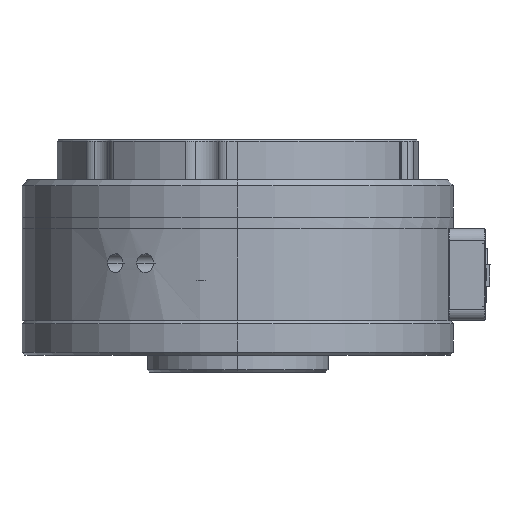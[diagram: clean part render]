
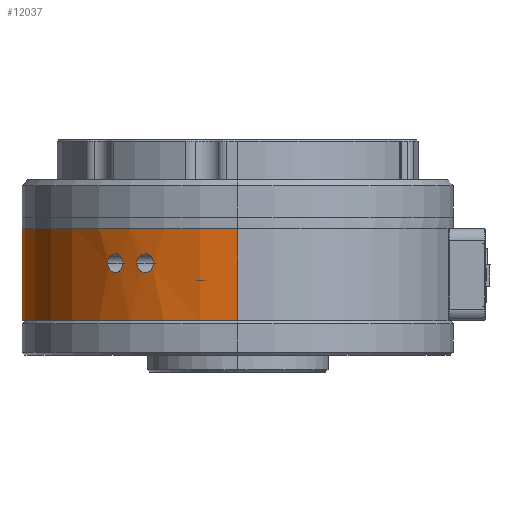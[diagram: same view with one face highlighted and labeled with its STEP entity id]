
A CAD part, left-side view. The second image highlights one B-rep face of the part: STEP entity #12037.
In plain terms, the highlighted cylindrical face has radius 37.5 mm (diameter 75 mm), a partial arc.
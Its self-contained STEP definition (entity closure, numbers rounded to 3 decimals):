
#10553=AXIS2_PLACEMENT_3D('Circle Axis2P3D',#10551,#10552,$) ;
#11926=AXIS2_PLACEMENT_3D('Cylinder Axis2P3D',#11923,#11924,#11925) ;
#11949=AXIS2_PLACEMENT_3D('Circle Axis2P3D',#11947,#11948,$) ;
#10548=CARTESIAN_POINT('Vertex',(-37.5,0.,-7.)) ;
#10551=CARTESIAN_POINT('Axis2P3D Location',(0.,0.,-7.)) ;
#10555=CARTESIAN_POINT('Vertex',(37.5,0.,-7.)) ;
#11923=CARTESIAN_POINT('Axis2P3D Location',(0.,0.,-2.5)) ;
#11932=CARTESIAN_POINT('Vertex',(-37.5,0.,9.)) ;
#11935=CARTESIAN_POINT('Line Origine',(-37.5,0.,-2.5)) ;
#11947=CARTESIAN_POINT('Axis2P3D Location',(0.,0.,9.)) ;
#11951=CARTESIAN_POINT('Vertex',(37.5,0.,9.)) ;
#11954=CARTESIAN_POINT('Line Origine',(37.5,0.,-2.5)) ;
#11966=CARTESIAN_POINT('Control Point',(-34.531,14.625,3.)) ;
#11967=CARTESIAN_POINT('Control Point',(-34.531,14.625,3.41)) ;
#11968=CARTESIAN_POINT('Control Point',(-34.479,14.747,3.82)) ;
#11969=CARTESIAN_POINT('Control Point',(-34.376,14.991,4.172)) ;
#11970=CARTESIAN_POINT('Control Point',(-34.159,15.48,4.537)) ;
#11971=CARTESIAN_POINT('Control Point',(-33.897,16.04,4.619)) ;
#11972=CARTESIAN_POINT('Control Point',(-33.807,16.229,4.613)) ;
#11973=CARTESIAN_POINT('Control Point',(-33.548,16.763,4.499)) ;
#11974=CARTESIAN_POINT('Control Point',(-33.321,17.207,4.123)) ;
#11975=CARTESIAN_POINT('Control Point',(-33.209,17.419,3.782)) ;
#11976=CARTESIAN_POINT('Control Point',(-33.153,17.524,3.391)) ;
#11977=CARTESIAN_POINT('Control Point',(-33.153,17.524,3.)) ;
#11978=CARTESIAN_POINT('Vertex',(-34.531,14.625,3.)) ;
#11980=CARTESIAN_POINT('Vertex',(-33.153,17.524,3.)) ;
#11984=CARTESIAN_POINT('Control Point',(-34.531,14.625,3.)) ;
#11985=CARTESIAN_POINT('Control Point',(-34.531,14.625,2.59)) ;
#11986=CARTESIAN_POINT('Control Point',(-34.479,14.747,2.18)) ;
#11987=CARTESIAN_POINT('Control Point',(-34.376,14.991,1.828)) ;
#11988=CARTESIAN_POINT('Control Point',(-34.159,15.48,1.463)) ;
#11989=CARTESIAN_POINT('Control Point',(-33.897,16.04,1.381)) ;
#11990=CARTESIAN_POINT('Control Point',(-33.807,16.229,1.387)) ;
#11991=CARTESIAN_POINT('Control Point',(-33.548,16.763,1.501)) ;
#11992=CARTESIAN_POINT('Control Point',(-33.321,17.207,1.877)) ;
#11993=CARTESIAN_POINT('Control Point',(-33.209,17.419,2.218)) ;
#11994=CARTESIAN_POINT('Control Point',(-33.153,17.524,2.609)) ;
#11995=CARTESIAN_POINT('Control Point',(-33.153,17.524,3.)) ;
#12002=CARTESIAN_POINT('Control Point',(-29.931,22.592,3.)) ;
#12003=CARTESIAN_POINT('Control Point',(-29.931,22.592,2.59)) ;
#12004=CARTESIAN_POINT('Control Point',(-30.01,22.486,2.18)) ;
#12005=CARTESIAN_POINT('Control Point',(-30.171,22.275,1.828)) ;
#12006=CARTESIAN_POINT('Control Point',(-30.486,21.843,1.463)) ;
#12007=CARTESIAN_POINT('Control Point',(-30.84,21.336,1.381)) ;
#12008=CARTESIAN_POINT('Control Point',(-30.959,21.163,1.387)) ;
#12009=CARTESIAN_POINT('Control Point',(-31.291,20.672,1.501)) ;
#12010=CARTESIAN_POINT('Control Point',(-31.563,20.253,1.877)) ;
#12011=CARTESIAN_POINT('Control Point',(-31.69,20.05,2.218)) ;
#12012=CARTESIAN_POINT('Control Point',(-31.753,19.949,2.609)) ;
#12013=CARTESIAN_POINT('Control Point',(-31.753,19.949,3.)) ;
#12014=CARTESIAN_POINT('Vertex',(-29.931,22.592,3.)) ;
#12016=CARTESIAN_POINT('Vertex',(-31.753,19.949,3.)) ;
#12020=CARTESIAN_POINT('Control Point',(-29.931,22.592,3.)) ;
#12021=CARTESIAN_POINT('Control Point',(-29.931,22.592,3.41)) ;
#12022=CARTESIAN_POINT('Control Point',(-30.01,22.486,3.82)) ;
#12023=CARTESIAN_POINT('Control Point',(-30.171,22.275,4.172)) ;
#12024=CARTESIAN_POINT('Control Point',(-30.486,21.843,4.537)) ;
#12025=CARTESIAN_POINT('Control Point',(-30.84,21.336,4.619)) ;
#12026=CARTESIAN_POINT('Control Point',(-30.959,21.163,4.613)) ;
#12027=CARTESIAN_POINT('Control Point',(-31.291,20.672,4.499)) ;
#12028=CARTESIAN_POINT('Control Point',(-31.563,20.253,4.123)) ;
#12029=CARTESIAN_POINT('Control Point',(-31.69,20.05,3.782)) ;
#12030=CARTESIAN_POINT('Control Point',(-31.753,19.949,3.391)) ;
#12031=CARTESIAN_POINT('Control Point',(-31.753,19.949,3.)) ;
#10552=DIRECTION('Axis2P3D Direction',(0.,0.,-1.)) ;
#11924=DIRECTION('Axis2P3D Direction',(0.,0.,-1.)) ;
#11925=DIRECTION('Axis2P3D XDirection',(1.,0.,0.)) ;
#11936=DIRECTION('Vector Direction',(0.,0.,-1.)) ;
#11948=DIRECTION('Axis2P3D Direction',(0.,0.,-1.)) ;
#11955=DIRECTION('Vector Direction',(0.,0.,-1.)) ;
#11937=VECTOR('Line Direction',#11936,1.) ;
#11956=VECTOR('Line Direction',#11955,1.) ;
#11960=ORIENTED_EDGE('',*,*,#11939,.F.) ;
#11961=ORIENTED_EDGE('',*,*,#11953,.F.) ;
#11962=ORIENTED_EDGE('',*,*,#11958,.T.) ;
#11963=ORIENTED_EDGE('',*,*,#10557,.F.) ;
#11998=ORIENTED_EDGE('',*,*,#11982,.F.) ;
#11999=ORIENTED_EDGE('',*,*,#11996,.T.) ;
#12034=ORIENTED_EDGE('',*,*,#12018,.F.) ;
#12035=ORIENTED_EDGE('',*,*,#12032,.T.) ;
#12000=FACE_BOUND('',#11997,.T.) ;
#12036=FACE_BOUND('',#12033,.T.) ;
#12037=ADVANCED_FACE('\X2\96F64EF651E04F554F53\X0\',(#11964,#12000,#12036),#11927,.T.) ;
#11965=B_SPLINE_CURVE_WITH_KNOTS('',5,(#11966,#11967,#11968,#11969,#11970,#11971,#11972,#11973,#11974,#11975,#11976,#11977),.UNSPECIFIED.,.F.,.U.,(6,3,3,6),(0.,2.9,4.358,7.121),.UNSPECIFIED.) ;
#11983=B_SPLINE_CURVE_WITH_KNOTS('',5,(#11984,#11985,#11986,#11987,#11988,#11989,#11990,#11991,#11992,#11993,#11994,#11995),.UNSPECIFIED.,.F.,.U.,(6,3,3,6),(0.,2.9,4.358,7.121),.UNSPECIFIED.) ;
#12001=B_SPLINE_CURVE_WITH_KNOTS('',5,(#12002,#12003,#12004,#12005,#12006,#12007,#12008,#12009,#12010,#12011,#12012,#12013),.UNSPECIFIED.,.F.,.U.,(6,3,3,6),(0.,2.9,4.358,7.121),.UNSPECIFIED.) ;
#12019=B_SPLINE_CURVE_WITH_KNOTS('',5,(#12020,#12021,#12022,#12023,#12024,#12025,#12026,#12027,#12028,#12029,#12030,#12031),.UNSPECIFIED.,.F.,.U.,(6,3,3,6),(0.,2.9,4.358,7.121),.UNSPECIFIED.) ;
#10554=CIRCLE('generated circle',#10553,37.5) ;
#11950=CIRCLE('generated circle',#11949,37.5) ;
#11927=CYLINDRICAL_SURFACE('generated cylinder',#11926,37.5) ;
#10557=EDGE_CURVE('',#10549,#10556,#10554,.T.) ;
#11939=EDGE_CURVE('',#11933,#10549,#11938,.T.) ;
#11953=EDGE_CURVE('',#11952,#11933,#11950,.F.) ;
#11958=EDGE_CURVE('',#11952,#10556,#11957,.T.) ;
#11982=EDGE_CURVE('',#11979,#11981,#11965,.T.) ;
#11996=EDGE_CURVE('',#11979,#11981,#11983,.T.) ;
#12018=EDGE_CURVE('',#12015,#12017,#12001,.T.) ;
#12032=EDGE_CURVE('',#12015,#12017,#12019,.T.) ;
#11959=EDGE_LOOP('',(#11960,#11961,#11962,#11963)) ;
#11997=EDGE_LOOP('',(#11998,#11999)) ;
#12033=EDGE_LOOP('',(#12034,#12035)) ;
#11964=FACE_OUTER_BOUND('',#11959,.T.) ;
#11938=LINE('Line',#11935,#11937) ;
#11957=LINE('Line',#11954,#11956) ;
#10549=VERTEX_POINT('',#10548) ;
#10556=VERTEX_POINT('',#10555) ;
#11933=VERTEX_POINT('',#11932) ;
#11952=VERTEX_POINT('',#11951) ;
#11979=VERTEX_POINT('',#11978) ;
#11981=VERTEX_POINT('',#11980) ;
#12015=VERTEX_POINT('',#12014) ;
#12017=VERTEX_POINT('',#12016) ;
